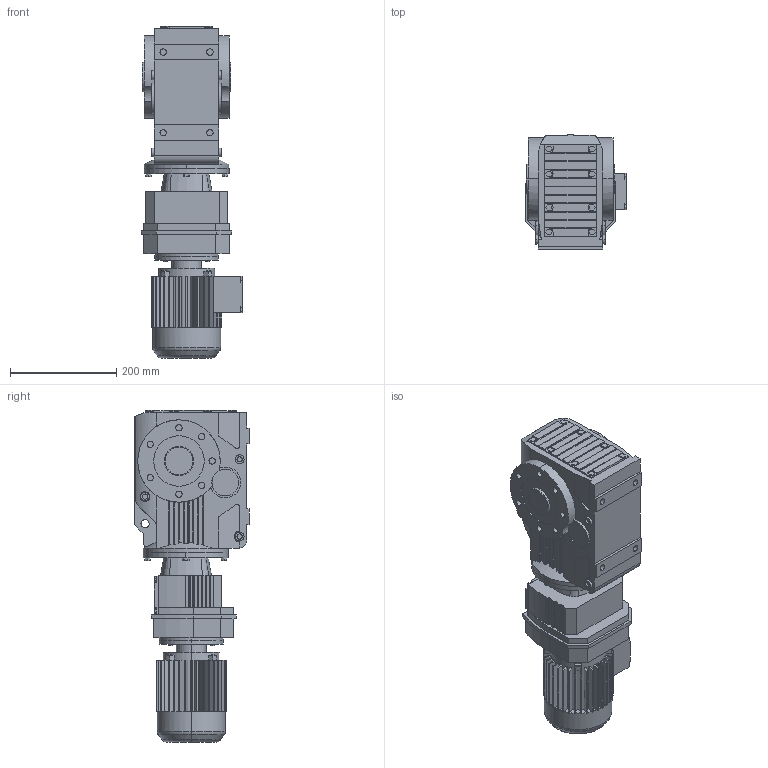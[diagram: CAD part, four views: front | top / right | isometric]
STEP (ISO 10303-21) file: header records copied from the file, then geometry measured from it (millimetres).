
FILE_DESCRIPTION(('Open CASCADE Model'),'2;1');
FILE_NAME('Open CASCADE Shape Model','2021-07-24T16:29:50',('Author'),( 'Open CASCADE'),'Open CASCADE STEP processor 6.3','Open CASCADE 6.3' ,'Unknown');
FILE_SCHEMA(('AUTOMOTIVE_DESIGN_CC2 { 1 2 10303 214 -1 1 5 4 }'));
Length unit declared in the file: millimetre
Products named in the file (5): 1_KA57R37DR63-A; KA37‵107_57.step; 萇儂_120-DR63-191-246-132-105.step; R_57_37.step; す瑩諾陑粣K_57.step
Assembly tree (4 placements, depth 2):
  1_KA57R37DR63-A
    KA37‵107_57.step
    萇儂_120-DR63-191-246-132-105.step
    R_57_37.step
    す瑩諾陑粣K_57.step
Bounding box: 190.5 x 215 x 625 mm (x, y, z)
Volume: 12019372.1 mm3; surface area: 714323 mm2
Topology: 4 solids, 4 shells, 1092 faces, 2872 edges, 1877 vertices
Faces by surface type: plane 750, cylinder 324, cone 14, torus 4
Entity records: 79357 total; most frequent: CARTESIAN_POINT 24902, DIRECTION 9268, ORIENTED_EDGE 5744, PCURVE 5744, DEFINITIONAL_REPRESENTATION 5744, LINE 5175, VECTOR 5175, EDGE_CURVE 2872
